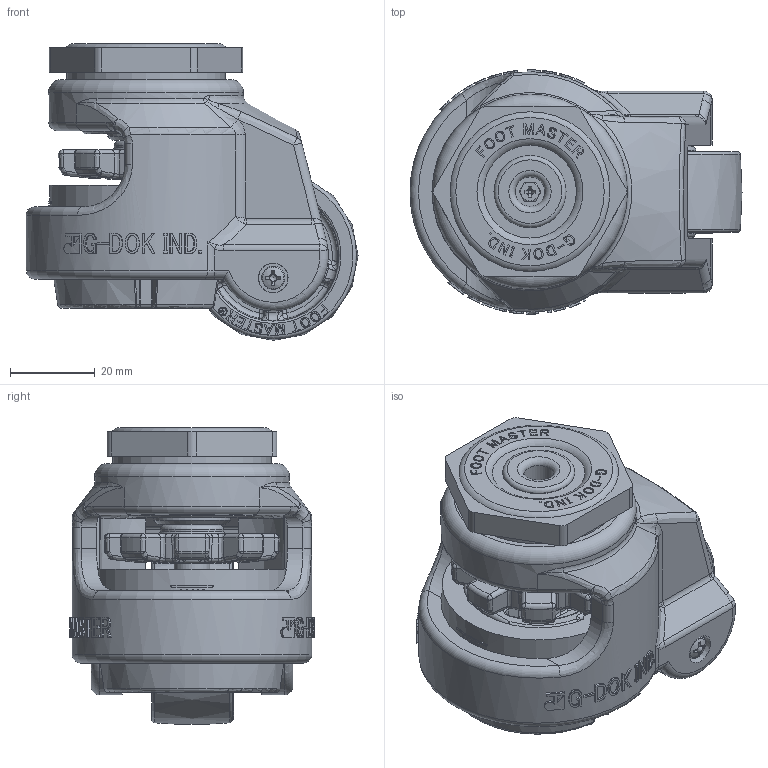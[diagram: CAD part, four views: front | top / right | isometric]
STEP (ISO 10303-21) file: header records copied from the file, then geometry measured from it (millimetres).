
FILE_DESCRIPTION(/* description */ (''),/* implementation_level */ '2;1');
FILE_NAME(/* name */ 'Z:\1.기술연구소\★★도면정리_20220308\GD-series_오창근편집본\도면높이보정용\1. GD, GDN-40\3D\관리본\STEP\GDN-40-S-NYN_H70_W40.stp',/* time_stamp */ '2023-07-27T19:48:10+09:00',/* author */ ('admin'),/* organization */ (''),/* preprocessor_version */ 'ST-DEVELOPER v18.1',/* originating_system */ 'Autodesk Inventor 2021',/* authorisation */ '');
FILE_SCHEMA (('CONFIG_CONTROL_DESIGN','AUTOMOTIVE_DESIGN { 1 0 10303 214 3 1 1 }'));
Length unit declared in the file: millimetre
Products named in the file (1): 4. GDN-40-S-NYN_H70_W40_Shrinkwrap_1
Bounding box: 78.3 x 57.6 x 69.96 mm (x, y, z)
Volume: 123478.6 mm3; surface area: 44094.5 mm2
Topology: 3 solids, 4 shells, 2916 faces, 7308 edges, 4439 vertices
Faces by surface type: bspline 1154, plane 978, cylinder 296, torus 204, cone 146, sphere 138
Full cylindrical faces by diameter (mm): 2.9 x2, 5.5 x2, 7 x2, 7.1 x1, 8 x1, 8.4 x1, 10.945 x1, 11.542 x1, 14.9 x1, 15.2 x1, 17 x1, 18 x1, 30 x1, 37.383 x1, 46 x1
Entity records: 109869 total; most frequent: CARTESIAN_POINT 44894, ORIENTED_EDGE 14408, DIRECTION 10244, EDGE_CURVE 7204, VERTEX_POINT 4439, AXIS2_PLACEMENT_3D 3710, EDGE_LOOP 3068, FACE_OUTER_BOUND 2916
